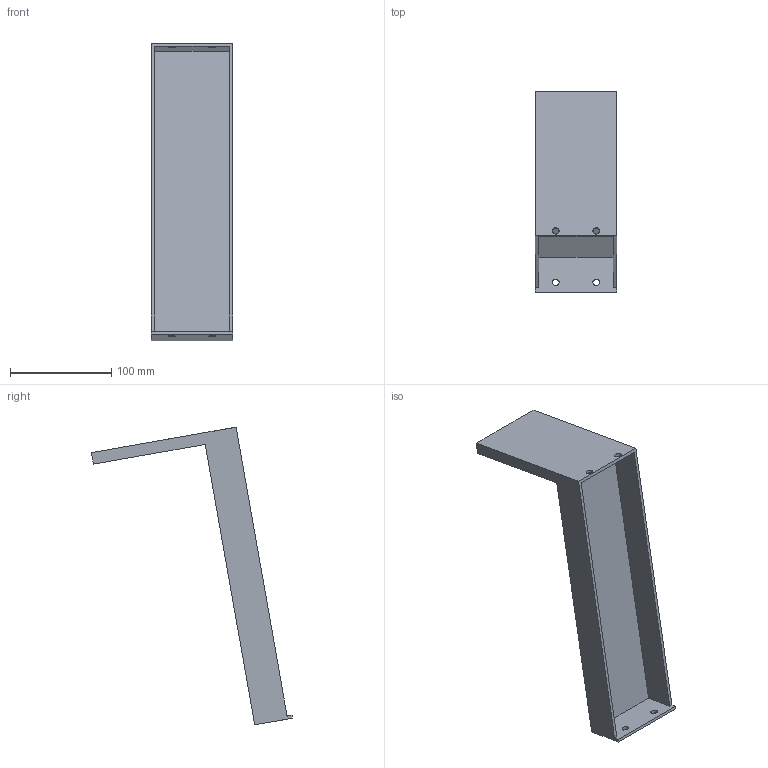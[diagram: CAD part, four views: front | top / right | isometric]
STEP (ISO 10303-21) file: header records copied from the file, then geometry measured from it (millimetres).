
FILE_DESCRIPTION(('golf model'),'2;1');
FILE_NAME('golf','',(''),(''),'golf_step_io','golf','');
FILE_SCHEMA(('AUTOMOTIVE_DESIGN { 1 0 10303 214 1 1 1 1 }'));
Length unit declared in the file: millimetre
Products named in the file (2): ASSEMBLY; gantry_frame.chain_arm
Assembly tree (1 placements, depth 2):
  ASSEMBLY
    gantry_frame.chain_arm
Bounding box: 80 x 198.51 x 293.79 mm (x, y, z)
Volume: 239999.5 mm3; surface area: 114316.1 mm2
Topology: 1 solids, 1 shells, 18 faces, 48 edges, 32 vertices
Faces by surface type: plane 14, cylinder 4
Full cylindrical faces by diameter (mm): 6.6 x4
Entity records: 590 total; most frequent: CARTESIAN_POINT 96, DIRECTION 92, ORIENTED_EDGE 88, EDGE_CURVE 44, VECTOR 36, LINE 36, VERTEX_POINT 32, EDGE_LOOP 30
